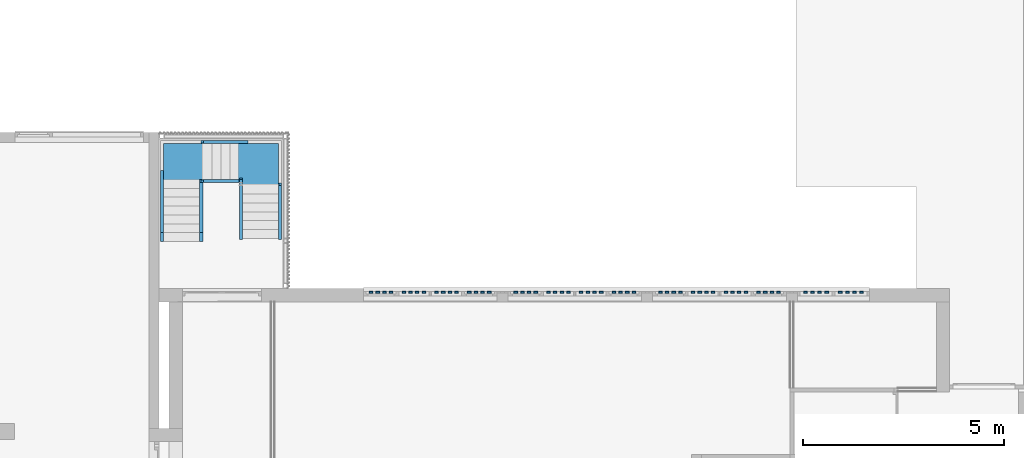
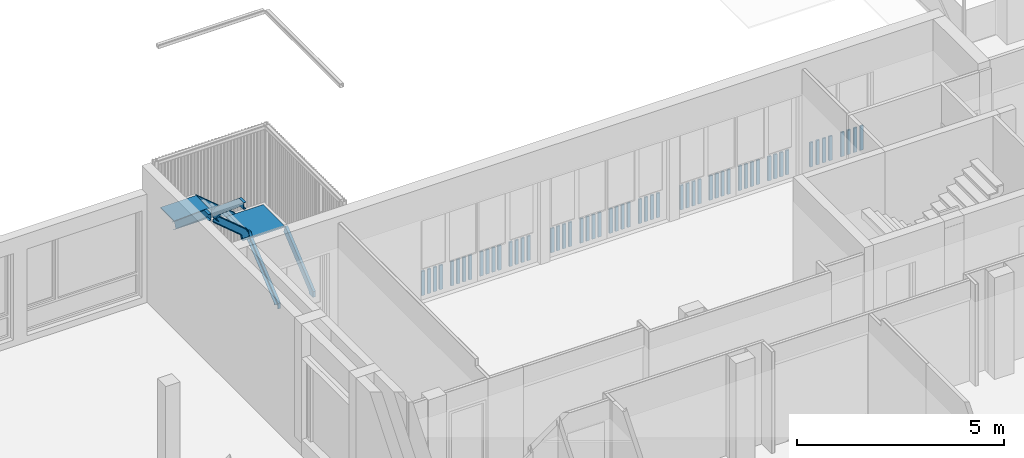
# One storey, part 20 of 117: 56 columns, 8 members, 1 element without a shape of its own.
"""IFC2X3 building model written with IfcOpenShell, lengths in millimetres."""

from ifc_helpers import new_model, entity, si_unit, converted_unit, derived_unit, money_unit, direction, frame, origin_with_axes, place, context, subcontext, project, spatial, faceted_brep, material, type_object, element, aggregate, save


model = new_model("IFC2X3")

# Units and contexts
model_context = context("Model", 3, precision=0.01, world=origin_with_axes(), true_north=direction((0.0, 1.0)))
body_context = subcontext(model_context, "Body", "Model", "MODEL_VIEW")
ifc_project = project(units=[si_unit("LENGTHUNIT", "METRE", prefix="MILLI"), si_unit("AREAUNIT", "SQUARE_METRE"), si_unit("VOLUMEUNIT", "CUBIC_METRE"), converted_unit("PLANEANGLEUNIT", "DEGREE", entity("IfcPlaneAngleMeasure", 0.0174532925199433), si_unit("PLANEANGLEUNIT", "RADIAN"), dimensions=[0, 0, 0, 0, 0, 0, 0]), money_unit("EUR"), converted_unit("TIMEUNIT", "Year", entity("IfcTimeMeasure", 31557600.0), si_unit("TIMEUNIT", "SECOND"), dimensions=[0, 0, 1, 0, 0, 0, 0]), si_unit("MASSUNIT", "GRAM", prefix="KILO"), si_unit("THERMODYNAMICTEMPERATUREUNIT", "DEGREE_CELSIUS"), si_unit("LUMINOUSINTENSITYUNIT", "LUMEN"), si_unit("ENERGYUNIT", "JOULE", prefix="MEGA"), derived_unit("THERMALCONDUCTANCEUNIT", [(si_unit("POWERUNIT", "WATT"), 1), (si_unit("LENGTHUNIT", "METRE"), -1), (si_unit("THERMODYNAMICTEMPERATUREUNIT", "KELVIN"), -1)]), derived_unit("SPECIFICHEATCAPACITYUNIT", [(si_unit("ENERGYUNIT", "JOULE"), 1), (si_unit("MASSUNIT", "GRAM", prefix="KILO"), -1), (si_unit("THERMODYNAMICTEMPERATUREUNIT", "KELVIN"), -1)]), derived_unit("MASSDENSITYUNIT", [(si_unit("MASSUNIT", "GRAM", prefix="KILO"), 1), (si_unit("VOLUMEUNIT", "CUBIC_METRE"), -1)])], contexts=[model_context])

# Site, building, storey
site_placement = place(None, origin_with_axes())
site = spatial("IfcSite", under=ifc_project, at=site_placement, Name="Site", CompositionType="ELEMENT")
building_placement = place(site_placement, origin_with_axes())
building = spatial("IfcBuilding", under=site, at=building_placement, Name="Naam gebouw", CompositionType="ELEMENT")
storey_placement = place(building_placement, frame((0.0, 0.0, 4150.0), z_axis=(0.0, 0.0, 1.0), x_axis=(1.0, 0.0, 0.0)))
storey = spatial("IfcBuildingStorey", under=building, at=storey_placement, Name="1e verdieping N", CompositionType="ELEMENT", Elevation=4150.0)

# Columns
ifc_material = material(Name="Metaal - Staal C")
column_type = type_object("IfcColumnType", Name="Metaal - Staal C 90 x 44", PredefinedType="COLUMN")
column_1_placement = place(storey_placement, frame((8027.415839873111, 20233.83949611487, 67.00000000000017), z_axis=(0.0, 0.0, 1.0), x_axis=(-1.0, 0.0, 0.0)))
element("IfcColumn", 1, at=column_1_placement, inside=storey, type_object=column_type, material=ifc_material, Name="_Kolom-x", ObjectType="COLUMN", context=body_context, shape_type="Brep", body=[
    faceted_brep([(-44.99999999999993, -21.99999999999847, 716.000000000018), (-44.99999999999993, -21.99999999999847, 0.0), (45.00000000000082, -21.99999999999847, 0.0), (45.00000000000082, -21.99999999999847, 716.000000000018), (-44.99999999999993, 21.99999999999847, 716.000000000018), (-44.99999999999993, 21.99999999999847, 0.0), (45.00000000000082, 21.99999999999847, 0.0), (45.00000000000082, 21.99999999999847, 716.000000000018)], [[[0, 1, 2, 3]], [[4, 5, 1, 0]], [[2, 1, 5, 6]], [[3, 2, 6, 7]], [[4, 0, 3, 7]], [[7, 6, 5, 4]]]),
])
for number, where, z_axis, x_axis, name in (
    (2, (7861.304728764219, 20233.83949611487, 67.00000000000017), (0.0, 0.0, 1.0), (-1.0, 0.0, 0.0), "_Kolom-x"),
    (3, (7695.193617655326, 20233.83949611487, 67.00000000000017), (0.0, 0.0, 1.0), (-1.0, 0.0, 0.0), "_Kolom-x"),
    (4, (7529.082506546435, 20233.83949611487, 67.00000000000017), (0.0, 0.0, 1.0), (-1.0, 0.0, 0.0), "_Kolom-x"),
    (5, (6870.916666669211, 20233.83949611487, 67.00000000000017), (0.0, 0.0, 1.0), (-1.0, 0.0, 0.0), "_Kolom-x"),
    (6, (6704.805555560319, 20233.83949611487, 67.00000000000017), (0.0, 0.0, 1.0), (-1.0, 0.0, 0.0), "_Kolom-x"),
    (7, (6538.694444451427, 20233.83949611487, 67.00000000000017), (0.0, 0.0, 1.0), (-1.0, 0.0, 0.0), "_Kolom-x"),
    (8, (6372.583333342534, 20233.83949611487, 67.00000000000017), (0.0, 0.0, 1.0), (-1.0, 0.0, 0.0), "_Kolom-x"),
    (9, (6056.416666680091, 20233.83949611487, 67.00000000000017), (0.0, 0.0, 1.0), (-1.0, 0.0, 0.0), "_Kolom-x"),
    (10, (5890.305555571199, 20233.83949611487, 67.00000000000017), (0.0, 0.0, 1.0), (-1.0, 0.0, 0.0), "_Kolom-x"),
    (11, (5724.194444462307, 20233.83949611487, 67.00000000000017), (0.0, 0.0, 1.0), (-1.0, 0.0, 0.0), "_Kolom-x"),
    (12, (5558.083333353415, 20233.83949611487, 67.00000000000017), (0.0, 0.0, 1.0), (-1.0, 0.0, 0.0), "_Kolom-x"),
    (13, (5241.91666669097, 20233.83949611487, 67.00000000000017), (0.0, 0.0, 1.0), (-1.0, 0.0, 0.0), "_Kolom-x"),
    (14, (5075.805555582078, 20233.83949611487, 67.00000000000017), (0.0, 0.0, 1.0), (-1.0, 0.0, 0.0), "_Kolom-x"),
    (15, (4909.694444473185, 20233.83949611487, 67.00000000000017), (0.0, 0.0, 1.0), (-1.0, 0.0, 0.0), "_Kolom-x"),
    (16, (4743.583333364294, 20233.83949611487, 67.00000000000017), (0.0, 0.0, 1.0), (-1.0, 0.0, 0.0), "_Kolom-x"),
    (17, (4261.305555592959, 20233.83949611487, 67.00000000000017), (0.0, 0.0, 1.0), (-1.0, 0.0, 0.0), "_Kolom-x"),
    (18, (4427.41666670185, 20233.83949611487, 67.00000000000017), (0.0, 0.0, 1.0), (-1.0, 0.0, 0.0), "_Kolom-x"),
    (19, (4095.194444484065, 20233.83949611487, 67.00000000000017), (0.0, 0.0, 1.0), (-1.0, 0.0, 0.0), "_Kolom-x"),
    (20, (3929.083333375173, 20233.83949611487, 67.00000000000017), (0.0, 0.0, 1.0), (-1.0, 0.0, 0.0), "_Kolom-x"),
    (21, (8841.91583986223, 20233.83949611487, 67.00000000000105), (0.0, 0.0, 1.0), (-1.0, 0.0, 0.0), "_Kolom-x"),
    (22, (8675.804728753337, 20233.83949611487, 67.00000000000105), (0.0, 0.0, 1.0), (-1.0, 0.0, 0.0), "_Kolom-x"),
    (23, (8509.693617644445, 20233.83949611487, 67.00000000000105), (0.0, 0.0, 1.0), (-1.0, 0.0, 0.0), "_Kolom-x"),
    (24, (9656.41583985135, 20233.83949611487, 67.00000000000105), (0.0, 0.0, 1.0), (-1.0, 0.0, 0.0), "_Kolom-x"),
    (25, (8343.582506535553, 20233.83949611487, 67.00000000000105), (0.0, 0.0, 1.0), (-1.0, 0.0, 0.0), "_Kolom-x"),
    (26, (9490.304728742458, 20233.83949611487, 67.00000000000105), (0.0, 0.0, 1.0), (-1.0, 0.0, 0.0), "_Kolom-x"),
    (27, (9324.193617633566, 20233.83949611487, 67.00000000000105), (0.0, 0.0, 1.0), (-1.0, 0.0, 0.0), "_Kolom-x"),
    (28, (11627.39229001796, 20233.83949611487, 67.00000000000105), (0.0, 0.0, 1.0), (-1.0, 0.0, 0.0), "_Kolom-x"),
    (29, (9158.082506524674, 20233.83949611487, 67.00000000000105), (0.0, 0.0, 1.0), (-1.0, 0.0, 0.0), "_Kolom-x"),
    (30, (10304.80472873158, 20233.83949611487, 67.00000000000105), (0.0, 0.0, 1.0), (-1.0, 0.0, 0.0), "_Kolom-x"),
    (31, (9972.582506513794, 20233.83949611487, 67.00000000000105), (0.0, 0.0, 1.0), (-1.0, 0.0, 0.0), "_Kolom-x"),
    (32, (11461.28117890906, 20233.83949611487, 67.00000000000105), (0.0, 0.0, 1.0), (-1.0, 0.0, 0.0), "_Kolom-x"),
    (33, (11295.17006780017, 20233.83949611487, 67.00000000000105), (0.0, 0.0, 1.0), (-1.0, 0.0, 0.0), "_Kolom-x"),
    (34, (11129.05895669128, 20233.83949611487, 67.00000000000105), (0.0, 0.0, 1.0), (-1.0, 0.0, 0.0), "_Kolom-x"),
    (35, (12441.89788207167, 20233.83949611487, 67.00000000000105), (0.0, 0.0, 1.0), (-1.0, 0.0, 0.0), "_Kolom-x"),
    (36, (10138.69361762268, 20233.83949611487, 67.00000000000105), (0.0, 0.0, 1.0), (-1.0, 0.0, 0.0), "_Kolom-x"),
    (37, (12275.78677096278, 20233.83949611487, 67.00000000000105), (0.0, 0.0, 1.0), (-1.0, 0.0, 0.0), "_Kolom-x"),
    (38, (12109.67565985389, 20233.83949611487, 67.00000000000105), (0.0, 0.0, 1.0), (-1.0, 0.0, 0.0), "_Kolom-x"),
    (39, (11943.56454874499, 20233.83949611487, 67.00000000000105), (0.0, 0.0, 1.0), (-1.0, 0.0, 0.0), "_Kolom-x"),
    (40, (13256.40347412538, 20233.83949611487, 67.00000000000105), (0.0, 0.0, 1.0), (-1.0, 0.0, 0.0), "_Kolom-x"),
    (41, (13090.29236301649, 20233.83949611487, 67.00000000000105), (0.0, 0.0, 1.0), (-1.0, 0.0, 0.0), "_Kolom-x"),
    (42, (12758.0701407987, 20233.83949611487, 67.00000000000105), (0.0, 0.0, 1.0), (-1.0, 0.0, 0.0), "_Kolom-x"),
    (43, (13904.7989592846, 20233.83949611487, 67.00000000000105), (0.0, 0.0, 1.0), (-1.0, 0.0, 0.0), "_Kolom-x"),
    (44, (14070.91007039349, 20233.83949611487, 67.00000000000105), (0.0, 0.0, 1.0), (-1.0, 0.0, 0.0), "_Kolom-x"),
    (45, (13738.6878481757, 20233.83949611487, 67.00000000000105), (0.0, 0.0, 1.0), (-1.0, 0.0, 0.0), "_Kolom-x"),
    (46, (13572.57673706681, 20233.83949611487, 67.00000000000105), (0.0, 0.0, 1.0), (-1.0, 0.0, 0.0), "_Kolom-x"),
    (47, (12924.18125190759, 20233.83949611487, 67.00000000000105), (0.0, 0.0, 1.0), (-1.0, 0.0, 0.0), "_Kolom-x"),
    (48, (15270.74986732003, 20233.83949611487, 67.00000000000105), (0.0, 0.0, 1.0), (-1.0, 0.0, 0.0), "_Kolom-x"),
    (49, (15093.08317538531, 20233.83949611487, 67.00000000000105), (0.0, 0.0, 1.0), (-1.0, 0.0, 0.0), "_Kolom-x"),
    (50, (14915.41648345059, 20233.83949611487, 67.00000000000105), (0.0, 0.0, 1.0), (-1.0, 0.0, 0.0), "_Kolom-x"),
    (51, (14737.74979151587, 20233.83949611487, 67.00000000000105), (0.0, 0.0, 1.0), (-1.0, 0.0, 0.0), "_Kolom-x"),
):
    element("IfcColumn", number, at=place(storey_placement, frame(where, z_axis=z_axis, x_axis=x_axis)), inside=storey, type_object=column_type, material=ifc_material, Name=name, ObjectType="COLUMN", context=body_context, shape_type="Brep", body=[
        faceted_brep([(-44.99999999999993, -21.99999999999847, 716.000000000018), (-44.99999999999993, -21.99999999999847, 0.0), (44.99999999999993, -21.99999999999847, 0.0), (44.99999999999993, -21.99999999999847, 716.000000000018), (-44.99999999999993, 21.99999999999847, 716.000000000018), (-44.99999999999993, 21.99999999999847, 0.0), (44.99999999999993, 21.99999999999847, 0.0), (44.99999999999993, 21.99999999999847, 716.000000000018)], [[[0, 1, 2, 3]], [[4, 5, 1, 0]], [[2, 1, 5, 6]], [[3, 2, 6, 7]], [[4, 0, 3, 7]], [[7, 6, 5, 4]]]),
    ])
column_2_placement = place(storey_placement, frame((16137.24998102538, 20233.83949611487, 67.00000000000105), z_axis=(0.0, 0.0, 1.0), x_axis=(-1.0, 0.0, 0.0)))
element("IfcColumn", 52, at=column_2_placement, inside=storey, type_object=column_type, material=ifc_material, Name="_Kolom-x", ObjectType="COLUMN", context=body_context, shape_type="Brep", body=[
    faceted_brep([(-45.00000000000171, -21.99999999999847, 716.000000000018), (-45.00000000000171, -21.99999999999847, 0.0), (45.00000000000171, -21.99999999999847, 0.0), (45.00000000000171, -21.99999999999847, 716.000000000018), (-45.00000000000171, 21.99999999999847, 716.000000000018), (-45.00000000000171, 21.99999999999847, 0.0), (45.00000000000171, 21.99999999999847, 0.0), (45.00000000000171, 21.99999999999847, 716.000000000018)], [[[0, 1, 2, 3]], [[4, 5, 1, 0]], [[2, 1, 5, 6]], [[3, 2, 6, 7]], [[4, 0, 3, 7]], [[7, 6, 5, 4]]]),
])
column_3_placement = place(storey_placement, frame((15959.58328909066, 20233.83949611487, 67.00000000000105), z_axis=(0.0, 0.0, 1.0), x_axis=(-1.0, 0.0, 0.0)))
element("IfcColumn", 53, at=column_3_placement, inside=storey, type_object=column_type, material=ifc_material, Name="_Kolom-x", ObjectType="COLUMN", context=body_context, shape_type="Brep", body=[
    faceted_brep([(-44.99999999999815, -21.99999999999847, 716.000000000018), (-44.99999999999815, -21.99999999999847, 0.0), (44.99999999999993, -21.99999999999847, 0.0), (44.99999999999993, -21.99999999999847, 716.000000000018), (-44.99999999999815, 21.99999999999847, 716.000000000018), (-44.99999999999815, 21.99999999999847, 0.0), (44.99999999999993, 21.99999999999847, 0.0), (44.99999999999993, 21.99999999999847, 716.000000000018)], [[[0, 1, 2, 3]], [[4, 5, 1, 0]], [[2, 1, 5, 6]], [[3, 2, 6, 7]], [[4, 0, 3, 7]], [[7, 6, 5, 4]]]),
])
for number, where, z_axis, x_axis, name in (
    (54, (15781.91659715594, 20233.83949611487, 67.00000000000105), (0.0, 0.0, 1.0), (-1.0, 0.0, 0.0), "_Kolom-x"),
    (55, (15604.24990522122, 20233.83949611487, 67.00000000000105), (0.0, 0.0, 1.0), (-1.0, 0.0, 0.0), "_Kolom-x"),
    (56, (10470.91583984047, 20233.83949611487, 67.00000000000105), (0.0, 0.0, 1.0), (-1.0, 0.0, 0.0), "_Kolom-x"),
):
    element("IfcColumn", number, at=place(storey_placement, frame(where, z_axis=z_axis, x_axis=x_axis)), inside=storey, type_object=column_type, material=ifc_material, Name=name, ObjectType="COLUMN", context=body_context, shape_type="Brep", body=[
        faceted_brep([(-44.99999999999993, -21.99999999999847, 716.000000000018), (-44.99999999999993, -21.99999999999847, 0.0), (44.99999999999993, -21.99999999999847, 0.0), (44.99999999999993, -21.99999999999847, 716.000000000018), (-44.99999999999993, 21.99999999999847, 716.000000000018), (-44.99999999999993, 21.99999999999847, 0.0), (44.99999999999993, 21.99999999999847, 0.0), (44.99999999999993, 21.99999999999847, 716.000000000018)], [[[0, 1, 2, 3]], [[4, 5, 1, 0]], [[2, 1, 5, 6]], [[3, 2, 6, 7]], [[4, 0, 3, 7]], [[7, 6, 5, 4]]]),
    ])

# Stair, members
stair_placement = place(storey_placement, frame((1624.999999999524, 21575.82979156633, 0.0), z_axis=(0.0, 0.0, 1.0), x_axis=(1.0, 0.0, 0.0)))
stair = element("IfcStair", 57, at=stair_placement, inside=storey, Name="_Trap-x", ShapeType="NOTDEFINED")
member_type_1 = type_object("IfcMemberType", Name="IfcMember", PredefinedType="NOTDEFINED")
member_1_placement = place(stair_placement, origin_with_axes())
member_1 = element("IfcMember", 58, at=member_1_placement, type_object=member_type_1, material=ifc_material, Name="_Trapconstructie-x", context=body_context, shape_type="Brep", body=[
    faceted_brep([(-974.9999999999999, 1384.887414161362, 1089.473684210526), (-899.9999999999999, 1384.887414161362, 1089.473684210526), (-899.9999999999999, 125.1874284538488, 34.70096890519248), (-975.0, 125.1874284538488, 34.70096890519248), (-899.9999999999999, 1312.211678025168, 1289.473684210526), (-974.9999999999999, 1380.708559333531, 1100.973684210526), (-908.4999999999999, 1380.708559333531, 1100.973684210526), (-908.4999999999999, 1316.390532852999, 1277.973684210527), (-974.9999999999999, 1316.390532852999, 1277.973684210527), (-974.9999999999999, 1312.211678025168, 1289.473684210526), (-899.9999999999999, -3.209934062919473, 188.0441047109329), (-975.0, 170.0000000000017, 72.22345704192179), (-899.9999999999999, 170.0000000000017, 72.22345704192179), (-975.0, 117.8045801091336, 43.51819921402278), (-908.5, 117.8045801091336, 43.51819921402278), (-908.5, 4.17291428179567, 179.2268744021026), (-908.5, -18.49999999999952, 160.2423767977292), (-975.0, -18.49999999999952, 160.2423767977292), (-975.0, -18.49999999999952, 0.0), (-975.0, -30.00000000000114, 0.0), (-975.0, -30.00000000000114, 165.6122313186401), (-899.9999999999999, -30.00000000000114, 165.6122313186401), (-975.0, 158.5000000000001, 77.59331156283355), (-975.0, 170.0000000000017, 0.0), (-899.9999999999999, 170.0000000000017, 0.0), (-908.5, 158.5000000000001, 77.59331156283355), (-908.5, -18.49999999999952, 0.0), (-908.5, 158.5000000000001, 0.0), (-975.0, 158.5000000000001, 0.0), (-899.9999999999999, -30.00000000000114, 0.0)], [[[0, 1, 2, 3]], [[4, 1, 0, 5, 6, 7, 8, 9]], [[1, 4, 10, 2]], [[11, 3, 2, 12]], [[5, 0, 3, 13]], [[6, 5, 13, 14]], [[7, 6, 14, 15]], [[8, 7, 15, 16, 17]], [[9, 8, 17, 18, 19, 20]], [[4, 9, 20, 21, 10]], [[12, 2, 10, 21]], [[22, 13, 3, 11]], [[23, 11, 12, 24]], [[25, 14, 13, 22]], [[16, 15, 14, 25]], [[18, 17, 16, 26]], [[18, 26, 27, 28, 23, 24, 29, 19]], [[29, 21, 20, 19]], [[24, 12, 21, 29]], [[28, 22, 11, 23]], [[27, 25, 22, 28]], [[26, 16, 25, 27]]]),
])
member_2_placement = place(stair_placement, origin_with_axes())
member_2 = element("IfcMember", 59, at=member_2_placement, type_object=member_type_1, material=ifc_material, Name="_Trapconstructie-x", context=body_context, shape_type="Brep", body=[
    faceted_brep([(-1934.887414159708, 1390.000000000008, 2010.526315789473), (-1934.887414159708, 1465.000000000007, 2010.526315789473), (-1167.841596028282, 1465.000000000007, 1368.263070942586), (-1167.841596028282, 1390.000000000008, 1368.263070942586), (-1862.211678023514, 1465.000000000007, 2210.526315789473), (-1930.708559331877, 1390.000000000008, 2022.026315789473), (-1930.708559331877, 1456.500000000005, 2022.026315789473), (-1866.390532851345, 1456.500000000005, 2199.026315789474), (-1866.390532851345, 1390.000000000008, 2199.026315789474), (-1862.211678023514, 1390.000000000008, 2210.526315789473), (-985.4399590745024, 1465.000000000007, 1476.387316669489), (-970.8971503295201, 1465.000000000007, 1403.325358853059), (-899.9999999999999, 1465.000000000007, 1403.325358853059), (-899.9999999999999, 1465.000000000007, 1203.325358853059), (-1135.011137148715, 1465.000000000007, 1203.325358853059), (-1135.011137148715, 1390.000000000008, 1203.325358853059), (-974.9999999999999, 1390.000000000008, 1203.325358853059), (-974.9999999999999, 1390.000000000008, 1214.825358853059), (-1125.574582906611, 1390.000000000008, 1214.825358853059), (-1157.353501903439, 1390.000000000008, 1374.480215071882), (-1157.353501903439, 1456.500000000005, 1374.480215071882), (-1125.574582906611, 1456.500000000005, 1214.825358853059), (-908.4999999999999, 1456.500000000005, 1214.825358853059), (-908.4999999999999, 1456.500000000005, 1391.825358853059), (-980.3337045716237, 1456.500000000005, 1391.825358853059), (-995.9280531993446, 1456.500000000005, 1470.170172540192), (-995.9280531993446, 1390.000000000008, 1470.170172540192), (-980.3337045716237, 1390.000000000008, 1391.825358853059), (-974.9999999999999, 1390.000000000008, 1391.825358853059), (-974.9999999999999, 1390.000000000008, 1403.325358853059), (-970.8971503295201, 1390.000000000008, 1403.325358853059), (-985.4399590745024, 1390.000000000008, 1476.387316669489), (-974.9999999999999, 1387.005816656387, 1403.325358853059), (-899.9999999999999, 1387.005816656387, 1403.325358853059), (-899.9999999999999, 1326.73576736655, 1290.783366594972), (-899.9999999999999, 1399.887414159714, 1089.473684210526), (-899.9999999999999, 1483.127867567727, 1159.172628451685), (-899.9999999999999, 1506.773150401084, 1203.325358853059), (-974.9999999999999, 1506.773150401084, 1203.325358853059), (-974.9999999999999, 1499.886528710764, 1214.825358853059), (-908.4999999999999, 1499.886528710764, 1214.825358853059), (-908.4999999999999, 1474.039960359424, 1166.562177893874), (-908.4999999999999, 1395.708559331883, 1100.973684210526), (-908.4999999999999, 1331.390532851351, 1277.973684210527), (-908.4999999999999, 1334.165214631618, 1280.296982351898), (-908.4999999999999, 1393.892438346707, 1391.825358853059), (-974.9999999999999, 1393.892438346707, 1391.825358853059), (-974.9999999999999, 1326.73576736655, 1290.783366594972), (-974.9999999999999, 1331.390532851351, 1277.973684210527), (-974.9999999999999, 1395.708559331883, 1100.973684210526), (-974.9999999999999, 1399.887414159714, 1089.473684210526), (-974.9999999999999, 1483.127867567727, 1159.172628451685), (-974.9999999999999, 1474.039960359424, 1166.562177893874), (-974.9999999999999, 1334.165214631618, 1280.296982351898)], [[[0, 1, 2, 3]], [[4, 1, 0, 5, 6, 7, 8, 9]], [[1, 4, 10, 11, 12, 13, 14, 2]], [[3, 2, 14, 15]], [[5, 0, 3, 15, 16, 17, 18, 19]], [[6, 5, 19, 20]], [[7, 6, 20, 21, 22, 23, 24, 25]], [[8, 7, 25, 26]], [[9, 8, 26, 27, 28, 29, 30, 31]], [[4, 9, 31, 10]], [[10, 31, 30, 11]], [[29, 32, 33, 12, 11, 30]], [[13, 12, 33, 34, 35, 36, 37]], [[15, 14, 13, 16]], [[17, 16, 38, 39]], [[21, 18, 17, 22]], [[20, 19, 18, 21]], [[22, 40, 41, 42, 43, 44, 45, 23]], [[23, 45, 46, 28, 27, 24]], [[26, 25, 24, 27]], [[29, 28, 46, 32]], [[34, 33, 32, 47]], [[48, 43, 42, 49, 50, 35, 34, 47]], [[50, 51, 36, 35]], [[38, 37, 36, 51]], [[16, 13, 37, 38]], [[39, 38, 51, 50, 49, 52]], [[22, 17, 39, 40]], [[40, 39, 52, 41]], [[42, 41, 52, 49]], [[48, 53, 44, 43]], [[46, 45, 44, 53]], [[32, 46, 53, 48, 47]]]),
])
member_3_placement = place(stair_placement, origin_with_axes())
member_3 = element("IfcMember", 60, at=member_3_placement, type_object=member_type_1, material=ifc_material, Name="_Trapconstructie-x", context=body_context, shape_type="Brep", body=[
    faceted_brep([(0.0, 1384.887414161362, 1089.473684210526), (75.00000000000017, 1384.887414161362, 1089.473684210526), (74.99999999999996, 125.1874284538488, 34.70096890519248), (0.0, 125.1874284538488, 34.70096890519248), (75.00000000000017, 1380.708559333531, 1100.973684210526), (0.0, 1312.211678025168, 1289.473684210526), (75.00000000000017, 1312.211678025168, 1289.473684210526), (75.00000000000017, 1316.390532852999, 1277.973684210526), (8.500000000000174, 1316.390532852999, 1277.973684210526), (8.500000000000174, 1380.708559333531, 1100.973684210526), (74.99999999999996, 117.8045801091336, 43.51819921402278), (0.0, 170.0000000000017, 72.22345704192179), (74.99999999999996, 170.0000000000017, 72.22345704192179), (0.0, -3.209934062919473, 188.0441047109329), (0.0, -30.00000000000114, 165.6122313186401), (74.99999999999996, -30.00000000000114, 165.6122313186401), (74.99999999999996, -30.00000000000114, 0.0), (74.99999999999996, -18.49999999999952, 0.0), (74.99999999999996, -18.49999999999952, 160.2423767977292), (8.499999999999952, -18.49999999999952, 160.2423767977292), (8.499999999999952, 4.17291428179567, 179.2268744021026), (8.499999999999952, 117.8045801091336, 43.51819921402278), (74.99999999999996, 158.5000000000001, 77.59331156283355), (0.0, 170.0000000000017, 0.0), (74.99999999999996, 170.0000000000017, 0.0), (0.0, -30.00000000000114, 0.0), (74.99999999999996, 158.5000000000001, 0.0), (8.499999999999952, 158.5000000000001, 0.0), (8.499999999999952, -18.49999999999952, 0.0), (8.499999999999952, 158.5000000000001, 77.59331156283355)], [[[0, 1, 2, 3]], [[4, 1, 0, 5, 6, 7, 8, 9]], [[1, 4, 10, 2]], [[11, 3, 2, 12]], [[5, 0, 3, 13]], [[6, 5, 13, 14, 15]], [[7, 6, 15, 16, 17, 18]], [[8, 7, 18, 19, 20]], [[9, 8, 20, 21]], [[4, 9, 21, 10]], [[12, 2, 10, 22]], [[14, 13, 3, 11]], [[23, 11, 12, 24]], [[16, 15, 14, 25]], [[16, 25, 23, 24, 26, 27, 28, 17]], [[28, 19, 18, 17]], [[29, 21, 20, 19]], [[22, 10, 21, 29]], [[24, 12, 22, 26]], [[25, 14, 11, 23]], [[26, 22, 29, 27]], [[27, 29, 19, 28]]]),
])
member_4_placement = place(stair_placement, origin_with_axes())
member_4 = element("IfcMember", 61, at=member_4_placement, type_object=member_type_1, material=ifc_material, Name="_Trapconstructie-x", context=body_context, shape_type="Brep", body=[
    faceted_brep([(-1934.887414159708, 2365.000000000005, 2010.526315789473), (-1934.887414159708, 2440.000000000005, 2010.526315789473), (-834.8874141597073, 2440.000000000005, 1089.473684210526), (-834.8874141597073, 2365.000000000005, 1089.473684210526), (-1930.708559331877, 2440.000000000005, 2022.026315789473), (-1862.211678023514, 2365.000000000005, 2210.526315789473), (-1862.211678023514, 2440.000000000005, 2210.526315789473), (-1866.390532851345, 2440.000000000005, 2199.026315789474), (-1866.390532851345, 2373.500000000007, 2199.026315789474), (-1930.708559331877, 2373.500000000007, 2022.026315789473), (-830.7085593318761, 2440.000000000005, 1100.973684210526), (-766.3905328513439, 2440.000000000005, 1277.973684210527), (-762.2116780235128, 2440.000000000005, 1289.473684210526), (-762.2116780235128, 2365.000000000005, 1289.473684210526), (-830.7085593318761, 2373.500000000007, 1100.973684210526), (-766.3905328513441, 2373.500000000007, 1277.973684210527)], [[[0, 1, 2, 3]], [[4, 1, 0, 5, 6, 7, 8, 9]], [[1, 4, 10, 2]], [[11, 12, 13, 3, 2, 10, 14, 15]], [[5, 0, 3, 13]], [[6, 5, 13, 12]], [[7, 6, 12, 11]], [[8, 7, 11, 15]], [[9, 8, 15, 14]], [[4, 9, 14, 10]]]),
])
member_5_placement = place(stair_placement, origin_with_axes())
member_5 = element("IfcMember", 62, at=member_5_placement, type_object=member_type_1, material=ifc_material, Name="_Trapconstructie-x", context=body_context, shape_type="Brep", body=[
    faceted_brep([(-2934.999999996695, 1624.291430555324, 2022.026315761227), (-2934.999999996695, 1620.112575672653, 2010.526315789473), (-2934.999999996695, 80.11258583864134, 3300.0), (-2934.999999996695, -75.00000000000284, 3300.0), (-2934.999999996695, -75.00000000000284, 3311.5), (-2934.999999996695, 84.29144066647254, 3311.5), (-2859.999999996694, 1620.112575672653, 2010.526315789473), (-2868.499999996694, 1624.291430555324, 2022.026315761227), (-2868.499999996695, 1688.609457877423, 2199.026315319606), (-2934.999999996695, 1688.609457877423, 2199.026315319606), (-2934.999999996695, 1692.788312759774, 2210.526315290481), (-2859.999999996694, 1692.788312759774, 2210.526315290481), (-2859.999999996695, 80.11258583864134, 3300.0), (-2859.999999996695, -75.00000000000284, 3300.0), (-2868.499999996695, -75.00000000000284, 3311.5), (-2859.999999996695, -75.00000000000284, 3500.0), (-2934.999999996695, -75.00000000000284, 3500.0), (-2934.999999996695, -75.00000000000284, 3488.5), (-2868.499999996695, -75.00000000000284, 3488.5), (-2868.499999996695, 84.29144066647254, 3311.5), (-2868.499999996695, 148.6094671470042, 3488.5), (-2934.999999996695, 148.6094671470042, 3488.5), (-2934.999999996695, 152.7883219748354, 3500.0), (-2859.999999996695, 152.7883219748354, 3500.0)], [[[0, 1, 2, 3, 4, 5]], [[6, 1, 0, 7, 8, 9, 10, 11]], [[1, 6, 12, 2]], [[12, 13, 3, 2]], [[14, 4, 3, 13, 15, 16, 17, 18]], [[5, 4, 14, 19]], [[7, 0, 5, 19]], [[8, 7, 19, 14, 18, 20]], [[9, 8, 20, 21]], [[10, 9, 21, 17, 16, 22]], [[11, 10, 22, 23]], [[6, 11, 23, 15, 13, 12]], [[22, 16, 15, 23]], [[20, 18, 17, 21]]]),
])
member_6_placement = place(stair_placement, origin_with_axes())
member_6 = element("IfcMember", 63, at=member_6_placement, type_object=member_type_1, material=ifc_material, Name="_Trapconstructie-x", context=body_context, shape_type="Brep", body=[
    faceted_brep([(-1804.887414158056, 1465.000000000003, 2010.526315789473), (-1804.887414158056, 1390.000000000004, 2010.526315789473), (-1874.235814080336, 1390.000000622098, 2068.593157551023), (-1874.235813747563, 1465.000000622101, 2068.593157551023), (-1800.708559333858, 1390.000000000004, 2022.026315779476), (-1732.027005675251, 1464.999999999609, 2211.034524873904), (-1732.02700578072, 1390.000000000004, 2211.034524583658), (-1736.39053292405, 1390.000000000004, 2199.026315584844), (-1736.39053285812, 1456.500000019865, 2199.026315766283), (-1800.708559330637, 1456.5000000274, 2022.026315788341), (-1865.967181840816, 1390.000000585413, 2076.66870278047), (-1973.339349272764, 1390.000002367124, 2211.236842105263), (-1978.875602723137, 1390.000002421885, 2199.736842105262), (-1978.875601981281, 1465.000002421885, 2199.736842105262), (-1959.999999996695, 1465.000002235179, 2199.736842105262), (-1959.999999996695, 1465.000002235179, 2399.736842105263), (-1882.592933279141, 1465.000001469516, 2399.736842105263), (-1882.592934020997, 1390.000001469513, 2399.736842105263), (-1888.12918747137, 1390.000001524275, 2388.236842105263), (-1738.702146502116, 1390.000000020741, 2200.961877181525), (-1738.702146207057, 1456.500000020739, 2200.961877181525), (-1888.129186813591, 1456.500001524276, 2388.236842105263), (-1951.499999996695, 1456.500002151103, 2388.236842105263), (-1951.499999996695, 1456.500002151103, 2211.236842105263), (-1973.339348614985, 1456.500002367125, 2211.236842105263), (-1865.967181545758, 1456.500000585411, 2076.66870278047), (-1884.999999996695, 1390.000001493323, 2211.236842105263), (-1884.999999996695, 1390.000001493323, 2199.736842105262), (-1959.999999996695, 80.11258583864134, 3300.0), (-1959.999999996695, -75.00000000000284, 3300.0), (-1959.999999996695, -75.00000000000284, 3500.0), (-1959.999999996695, 152.7883219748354, 3500.0), (-1959.999999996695, 1028.209934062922, 2766.991473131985), (-1959.999999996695, 1248.607856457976, 2582.447758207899), (-1959.999999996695, 1392.427451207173, 2399.736842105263), (-1959.999999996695, 1295.329492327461, 2199.736842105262), (-1959.999999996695, 1104.293598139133, 2442.432166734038), (-1959.999999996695, 899.8125715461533, 2613.648337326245), (-1884.999999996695, 1392.427451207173, 2399.736842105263), (-1884.999999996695, 1390.000001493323, 2399.736842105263), (-1884.999999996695, 1390.000001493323, 2388.236842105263), (-1884.999999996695, 1386.844318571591, 2388.236842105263), (-1951.499999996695, 1386.844318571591, 2388.236842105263), (-1951.499999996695, 148.6094671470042, 3488.5), (-1951.499999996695, -75.00000000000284, 3488.5), (-1951.499999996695, -75.00000000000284, 3311.5), (-1951.499999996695, 84.29144066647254, 3311.5), (-1951.499999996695, 907.1954198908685, 2622.465567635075), (-1951.499999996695, 1112.591667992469, 2450.483063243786), (-1951.499999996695, 1300.912624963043, 2211.236842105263), (-1951.499999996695, 1240.309786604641, 2574.396861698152), (-1951.499999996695, 1020.827085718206, 2758.174242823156), (-1884.999999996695, 84.29144066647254, 3311.5), (-1884.999999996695, -75.00000000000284, 3311.5), (-1884.999999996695, -75.00000000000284, 3300.0), (-1884.999999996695, 80.11258583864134, 3300.0), (-1884.999999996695, 899.8125715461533, 2613.648337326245), (-1884.999999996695, 1104.293598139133, 2442.432166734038), (-1884.999999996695, 1295.329492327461, 2199.736842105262), (-1884.999999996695, 1300.912624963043, 2211.236842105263), (-1884.999999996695, 1112.591667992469, 2450.483063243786), (-1884.999999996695, 907.1954198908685, 2622.465567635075), (-1884.999999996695, -75.00000000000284, 3488.5), (-1884.999999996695, -75.00000000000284, 3500.0), (-1884.999999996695, 152.7883219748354, 3500.0), (-1884.999999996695, 1028.209934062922, 2766.991473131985), (-1884.999999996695, 1248.607856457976, 2582.447758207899), (-1884.999999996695, 148.6094671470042, 3488.5), (-1884.999999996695, 1020.827085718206, 2758.174242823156), (-1884.999999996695, 1240.309786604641, 2574.396861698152)], [[[0, 1, 2, 3]], [[4, 1, 0, 5, 6, 7, 8, 9]], [[1, 4, 10, 11, 12, 2]], [[2, 12, 13, 3]], [[5, 0, 3, 13, 14, 15, 16]], [[6, 5, 16, 17]], [[7, 6, 17, 18, 19]], [[8, 7, 19, 20]], [[9, 8, 20, 21, 22, 23, 24, 25]], [[4, 9, 25, 10]], [[25, 24, 11, 10]], [[11, 26, 27, 12]], [[12, 27, 14, 13]], [[28, 29, 30, 31, 32, 33, 34, 15, 14, 35, 36, 37]], [[15, 34, 38, 39, 17, 16]], [[17, 39, 40, 18]], [[19, 18, 21, 20]], [[40, 41, 42, 22, 21, 18]], [[43, 44, 45, 46, 47, 48, 49, 23, 22, 42, 50, 51]], [[24, 23, 26, 11]], [[52, 53, 54, 55, 56, 57, 58, 27, 26, 59, 60, 61]], [[27, 58, 35, 14]], [[55, 54, 29, 28]], [[62, 63, 30, 29, 54, 53, 45, 44]], [[31, 30, 63, 64]], [[32, 31, 64, 65]], [[33, 32, 65, 66]], [[34, 33, 66, 38]], [[58, 57, 36, 35]], [[57, 56, 37, 36]], [[56, 55, 28, 37]], [[64, 63, 62, 67, 68, 69, 41, 40, 39, 38, 66, 65]], [[41, 69, 50, 42]], [[67, 62, 44, 43]], [[46, 45, 53, 52]], [[47, 46, 52, 61]], [[48, 47, 61, 60]], [[49, 48, 60, 59]], [[23, 49, 59, 26]], [[69, 68, 51, 50]], [[68, 67, 43, 51]]]),
])
member_type_2 = type_object("IfcMemberType", Name="IfcMember", PredefinedType="USERDEFINED")
member_7_placement = place(stair_placement, frame((-449.9999999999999, 1320.0, 1289.473684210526), z_axis=(0.0, 0.0, 1.0), x_axis=(1.0, 0.0, 0.0)))
member_7 = element("IfcMember", 64, at=member_7_placement, type_object=member_type_2, material=ifc_material, Name="_Bordes afwerking-x", context=body_context, shape_type="Brep", body=[
    faceted_brep([(-450.0, 0.0, -38.0), (450.0, 0.0, -38.0), (450.0, 0.0, 0.0), (-450.0, 0.0, 0.0), (-450.0, 145.0000000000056, -38.0), (-579.9999999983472, 145.0000000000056, -38.0), (-579.9999999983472, 1045.000000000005, -38.0), (450.0000000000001, 1045.000000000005, -38.0), (450.0000000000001, 1045.000000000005, 0.0), (-579.9999999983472, 1045.000000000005, 0.0), (-579.9999999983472, 145.0000000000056, 0.0), (-450.0, 145.0000000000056, 0.0)], [[[0, 1, 2, 3]], [[0, 4, 5, 6, 7, 1]], [[1, 7, 8, 2]], [[3, 2, 8, 9, 10, 11]], [[4, 0, 3, 11]], [[5, 4, 11, 10]], [[6, 5, 10, 9]], [[7, 6, 9, 8]]]),
])
member_8_placement = place(stair_placement, frame((-1869.999999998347, 1915.000000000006, 2210.526315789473), z_axis=(0.0, 0.0, 1.0), x_axis=(0.0, 1.0, 0.0)))
member_8 = element("IfcMember", 65, at=member_8_placement, type_object=member_type_2, material=ifc_material, Name="_Bordes afwerking-x", context=body_context, shape_type="Brep", body=[
    faceted_brep([(-449.9999999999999, 0.0, -38.0), (449.9999999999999, 0.0, -38.0), (449.9999999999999, 0.0, 0.0), (-449.9999999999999, 0.0, 0.0), (-449.9999999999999, 89.99999999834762, -38.0), (-490.0000000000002, 89.99999999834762, -38.0), (-490.0000000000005, 989.9999999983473, -38.0), (449.9999999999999, 989.9999999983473, -38.0), (449.9999999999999, 989.9999999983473, 0.0), (-490.0000000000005, 989.9999999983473, 0.0), (-490.0000000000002, 89.99999999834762, 0.0), (-449.9999999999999, 89.99999999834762, 0.0)], [[[0, 1, 2, 3]], [[0, 4, 5, 6, 7, 1]], [[1, 7, 8, 2]], [[3, 2, 8, 9, 10, 11]], [[4, 0, 3, 11]], [[5, 4, 11, 10]], [[6, 5, 10, 9]], [[7, 6, 9, 8]]]),
])
aggregate(stair, [member_1, member_2, member_3, member_4, member_5, member_6, member_7, member_8])

save(model, "model.ifc")
